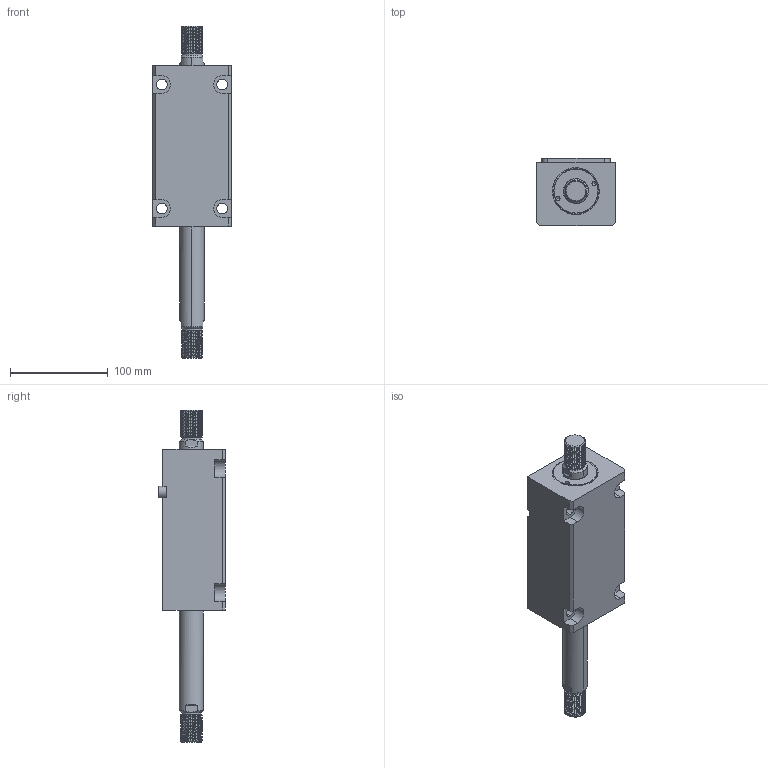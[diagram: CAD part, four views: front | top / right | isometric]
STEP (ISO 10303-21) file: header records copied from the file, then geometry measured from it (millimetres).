
FILE_DESCRIPTION (( 'STEP AP214' ), '1' );
FILE_NAME ('chtb-lwm40x95w_asm.STEP', '2018-05-31T00:53:23', ( 'Windows' ), ( 'Microsoft' ), 'SwSTEP 2.0', 'SolidWorks 2015', '' );
FILE_SCHEMA (( 'AUTOMOTIVE_DESIGN' ));
Length unit declared in the file: millimetre
Products named in the file (5): CHTB-SW40X95NHSG; CHTB-SD40QG; CHTB-LA40PJ; CHTB-LWM40X95NBT; chtb-lwm40x95w_asm
Assembly tree (4 placements, depth 2):
  chtb-lwm40x95w_asm
    CHTB-LWM40X95NBT
    CHTB-LA40PJ
    CHTB-SD40QG
    CHTB-SW40X95NHSG
Bounding box: 80 x 68.5 x 340 mm (x, y, z)
Volume: 815359.9 mm3; surface area: 130382.4 mm2
Topology: 4 solids, 4 shells, 252 faces, 699 edges, 465 vertices
Faces by surface type: cylinder 152, plane 57, bspline 18, cone 13, torus 12
Entity records: 17373 total; most frequent: CARTESIAN_POINT 11260, ORIENTED_EDGE 1386, DIRECTION 1092, EDGE_CURVE 693, VERTEX_POINT 465, AXIS2_PLACEMENT_3D 419, EDGE_LOOP 284, LINE 254
